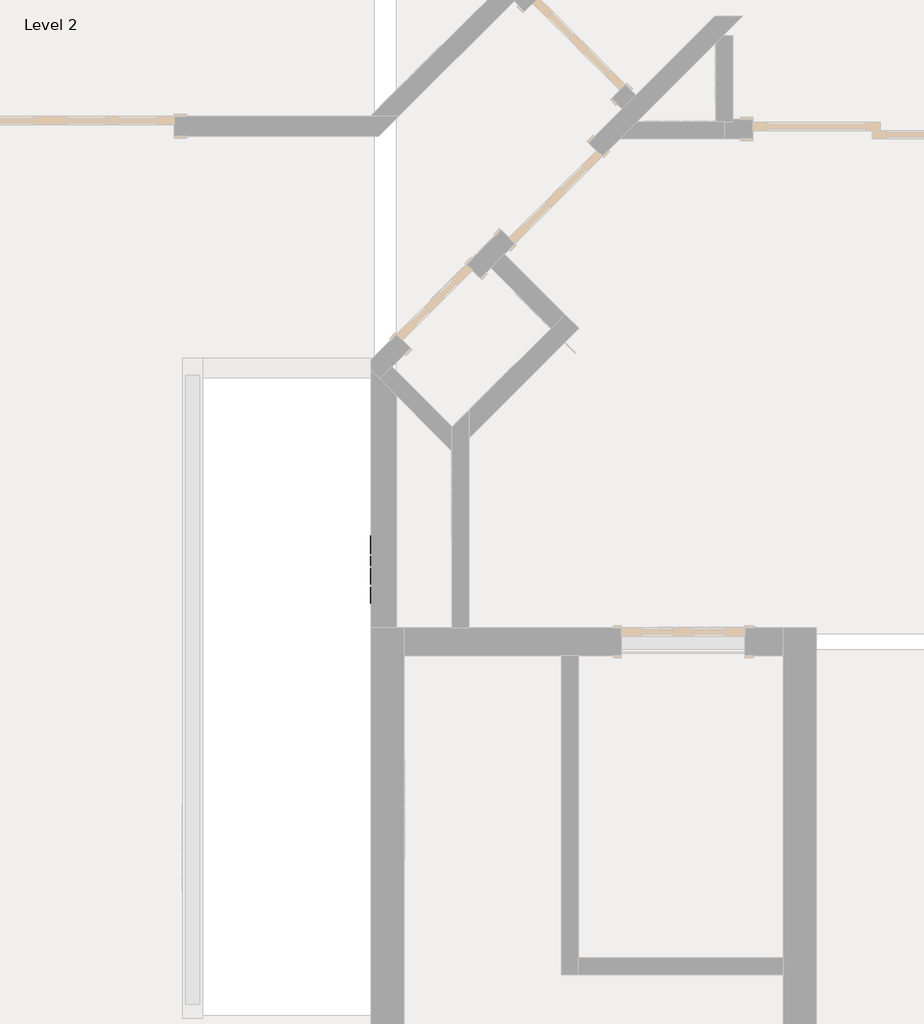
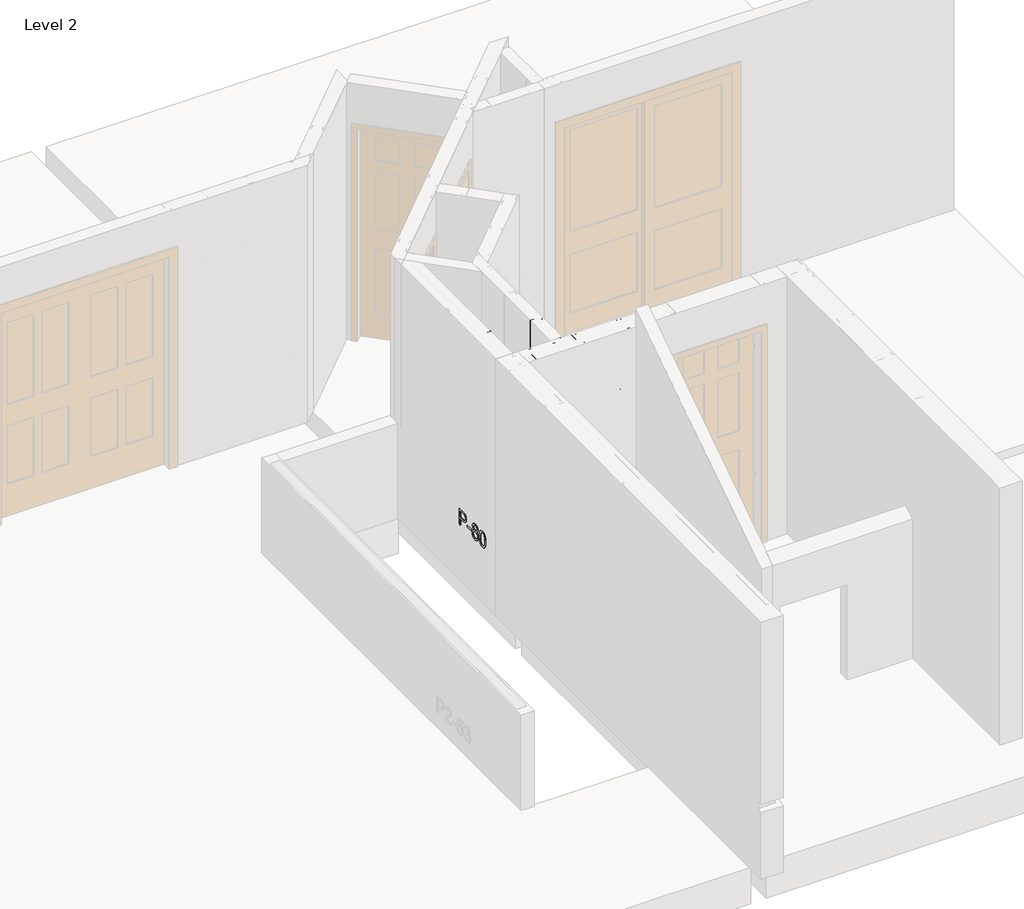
# One storey, part 17 of 46: 6 columns, 1 beam, 1 fastener.
"""IFC4 building model written with IfcOpenShell, lengths in millimetres."""

from ifc_helpers import new_model, si_unit, point, frame, origin, place, context, project, spatial, circle_curve, ellipse_curve, trimmed, transform, mapped, element, save
from ifc_brep_helpers import plane_surface, extruded_surface, advanced_brep
from components import beam_550nf150_33_da6981cb, panellabel_a96aa7af

model = new_model("IFC4")

# Units and contexts
model_context = context("Model", 3, world=origin())
ifc_project = project(units=[si_unit("LENGTHUNIT", "METRE", prefix="MILLI")], contexts=[model_context])

# Site, building, storey
site = spatial("IfcSite", under=ifc_project)
building = spatial("IfcBuilding", under=site)
storey = spatial("IfcBuildingStorey", under=building, Name="Level 2", Elevation=3060.7)

# Beam
placement = place(None, origin())
beam_550nf150_33_shape = beam_550nf150_33_da6981cb(model_context)
element("IfcBeam", 1, ObjectType="BIMSF-SSMA-S : 550NF150-33", at=placement, inside=storey, context=model_context, shape_type="MappedRepresentation", body=[
    mapped(beam_550nf150_33_shape, transform((-9034.5913349, 7311.9569916, 3076.575), x_axis=(0.0, 1.0000000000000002, 0.0), y_axis=(0.0, 0.0, -1.0000000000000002), z_axis=(-1.0000000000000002, 0.0, 0.0))),
])

# Columns
element("IfcColumn", 2, ObjectType="BIMSF-SSMA-S-Column : 350NF150-33", at=placement, inside=storey, context=model_context, shape_type="AdvancedBrep", body=[
    advanced_brep(
    [(-8532.1152285, 6499.352221, 3061.5929687), (-8621.0152285, 6499.352221, 3061.5929687), (-8621.0152285, 6537.452221, 3061.5929687), (-8615.3577127, 6537.452221, 3061.5929687), (-8615.3577127, 6536.5699052, 3061.5929687), (-8620.1329127, 6536.5699052, 3061.5929687), (-8620.1329127, 6500.2345367, 3061.5929687), (-8532.9975442, 6500.2345367, 3061.5929687), (-8532.9975442, 6536.5699052, 3061.5929687), (-8537.7727442, 6536.5699052, 3061.5929687), (-8537.7727442, 6537.452221, 3061.5929687), (-8532.1152285, 6537.452221, 3061.5929687), (-8532.1152285, 6499.352221, 5523.6070313), (-8621.0152285, 6499.352221, 5523.6070313), (-8589.2652285, 6499.352221, 3671.1929687), (-8563.8652285, 6499.352221, 3671.1929687), (-8589.2652285, 6499.352221, 4890.3929688), (-8563.8652285, 6499.352221, 4890.3929687), (-8621.0152285, 6537.452221, 5523.6070313), (-8615.3577127, 6537.452221, 5523.6070313), (-8615.3577127, 6536.5699052, 5523.6070313), (-8620.1329127, 6536.5699052, 5523.6070313), (-8620.1329127, 6500.2345367, 5523.6070313), (-8532.9975442, 6500.2345367, 5523.6070313), (-8563.8652285, 6500.2345367, 3671.1929687), (-8589.2652285, 6500.2345367, 3671.1929687), (-8563.8652285, 6500.2345367, 4890.3929688), (-8589.2652285, 6500.2345367, 4890.3929688), (-8532.9975442, 6536.5699052, 5523.6070313), (-8537.7727442, 6536.5699052, 5523.6070313), (-8537.7727442, 6537.452221, 5523.6070313), (-8532.1152285, 6537.452221, 5523.6070313)],
    [
        (0, 1),
        (1, 2),
        (2, 3),
        (3, 4),
        (4, 5),
        (5, 6),
        (6, 7),
        (7, 8),
        (8, 9),
        (9, 10),
        (10, 11),
        (11, 0),
        (0, 12),
        (12, 13),
        (13, 1),
        (14, 15, circle_curve(frame((-8576.5652285, 6499.352221, 3671.1929688), z_axis=(0.0, 1.0, 0.0), x_axis=(-1.0, 0.0, 0.0)), 12.7)),
        (15, 14, circle_curve(frame((-8576.5652285, 6499.352221, 3671.1929688), z_axis=(0.0, 1.0, 0.0), x_axis=(-1.0, 0.0, 0.0)), 12.7)),
        (16, 17, circle_curve(frame((-8576.5652285, 6499.352221, 4890.3929687), z_axis=(0.0, 1.0, 0.0), x_axis=(-1.0, 0.0, 0.0)), 12.7)),
        (17, 16, circle_curve(frame((-8576.5652285, 6499.352221, 4890.3929687), z_axis=(0.0, 1.0, 0.0), x_axis=(-1.0, 0.0, 0.0)), 12.7)),
        (13, 18),
        (18, 2),
        (18, 19),
        (19, 3),
        (19, 20),
        (20, 4),
        (20, 21),
        (21, 5),
        (21, 22),
        (22, 6),
        (22, 23),
        (23, 7),
        (24, 25, circle_curve(frame((-8576.5652285, 6500.2345367, 3671.1929687), z_axis=(0.0, -1.0, 0.0), x_axis=(-1.0, 0.0, 0.0)), 12.7)),
        (25, 24, circle_curve(frame((-8576.5652285, 6500.2345367, 3671.1929688), z_axis=(0.0, -1.0, 0.0), x_axis=(-1.0, 0.0, 0.0)), 12.7)),
        (26, 27, circle_curve(frame((-8576.5652285, 6500.2345367, 4890.3929687), z_axis=(0.0, -1.0, 0.0), x_axis=(-1.0, 0.0, 0.0)), 12.7)),
        (27, 26, circle_curve(frame((-8576.5652285, 6500.2345367, 4890.3929687), z_axis=(0.0, -1.0, 0.0), x_axis=(-1.0, 0.0, 0.0)), 12.7)),
        (23, 28),
        (28, 8),
        (28, 29),
        (29, 9),
        (29, 30),
        (30, 10),
        (30, 31),
        (31, 11),
        (31, 12),
        (24, 15),
        (14, 25),
        (26, 17),
        (16, 27),
    ],
    [
        plane_surface(frame((-8532.1152285, 6499.352221, 3061.5929687), z_axis=(0.0, 0.0, -1.0), x_axis=(0.0, -1.0, 0.0))),
        plane_surface(frame((-8621.0152285, 6499.352221, 5523.6070313), z_axis=(0.0, -1.0, 0.0), x_axis=(0.0, 0.0, -1.0))),
        plane_surface(frame((-8621.0152285, 6537.452221, 5523.6070313), z_axis=(-1.0, 0.0, 0.0), x_axis=(0.0, 0.0, -1.0))),
        plane_surface(frame((-8615.3577127, 6537.452221, 5523.6070313), z_axis=(0.0, 1.0, 0.0), x_axis=(0.0, 0.0, -1.0))),
        plane_surface(frame((-8615.3577127, 6536.5699052, 5523.6070313), z_axis=(1.0, 0.0, 0.0), x_axis=(0.0, 0.0, -1.0))),
        plane_surface(frame((-8620.1329127, 6536.5699052, 5523.6070313), z_axis=(0.0, -1.0, 0.0), x_axis=(0.0, 0.0, -1.0))),
        plane_surface(frame((-8620.1329127, 6500.2345367, 5523.6070313), z_axis=(1.0, 0.0, 0.0), x_axis=(0.0, 0.0, -1.0))),
        plane_surface(frame((-8532.9975442, 6500.2345367, 5523.6070313), z_axis=(0.0, 1.0, 0.0), x_axis=(0.0, 0.0, -1.0))),
        plane_surface(frame((-8532.9975442, 6536.5699052, 5523.6070313), z_axis=(-1.0, 0.0, 0.0), x_axis=(0.0, 0.0, -1.0))),
        plane_surface(frame((-8537.7727442, 6536.5699052, 5523.6070313), z_axis=(0.0, -1.0, 0.0), x_axis=(0.0, 0.0, -1.0))),
        plane_surface(frame((-8537.7727442, 6537.452221, 5523.6070313), z_axis=(-1.0, 0.0, 0.0), x_axis=(0.0, 0.0, -1.0))),
        plane_surface(frame((-8532.1152285, 6537.452221, 5523.6070313), z_axis=(0.0, 1.0, 0.0), x_axis=(0.0, 0.0, -1.0))),
        plane_surface(frame((-8532.1152285, 6499.352221, 5523.6070313), z_axis=(1.0, 0.0, 0.0), x_axis=(0.0, 0.0, -1.0))),
        plane_surface(frame((-8532.1152285, 6499.352221, 5523.6070313), z_axis=(0.0, 0.0, 1.0), x_axis=(0.0, 1.0, 0.0))),
        extruded_surface(trimmed(ellipse_curve(frame((-8576.5652285, 8980.4162835, 3671.1929688), z_axis=(0.0, -1.0, 0.0), x_axis=(-1.0, 0.0, 0.0)), 12.7, 12.7), [point((-8563.8652285, 8980.4162835, 3671.1929688))], [point((-8589.2652285, 8980.4162835, 3671.1929688))], True, "CARTESIAN"), (0.0, 4924.028124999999, 0.0), 4924.028124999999),
        extruded_surface(trimmed(ellipse_curve(frame((-8576.5652285, 8980.4162835, 3671.1929688), z_axis=(0.0, -1.0, 0.0), x_axis=(-1.0, 0.0, 0.0)), 12.7, 12.7), [point((-8589.2652285, 8980.4162835, 3671.1929688))], [point((-8563.8652285, 8980.4162835, 3671.1929688))], True, "CARTESIAN"), (0.0, 4924.028124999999, 0.0), 4924.028124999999),
        extruded_surface(trimmed(ellipse_curve(frame((-8576.5652285, 8980.4162835, 4890.3929687), z_axis=(0.0, -1.0, 0.0), x_axis=(-1.0, 0.0, 0.0)), 12.7, 12.7), [point((-8563.8652285, 8980.4162835, 4890.3929687))], [point((-8589.2652285, 8980.4162835, 4890.3929687))], True, "CARTESIAN"), (0.0, 4924.028124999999, 0.0), 4924.028124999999),
        extruded_surface(trimmed(ellipse_curve(frame((-8576.5652285, 8980.4162835, 4890.3929687), z_axis=(0.0, -1.0, 0.0), x_axis=(-1.0, 0.0, 0.0)), 12.7, 12.7), [point((-8589.2652285, 8980.4162835, 4890.3929687))], [point((-8563.8652285, 8980.4162835, 4890.3929687))], True, "CARTESIAN"), (0.0, 4924.028124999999, 0.0), 4924.028124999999),
    ],
    [
        (0, [[1, 2, 3, 4, 5, 6, 7, 8, 9, 10, 11, 12]]),
        (1, [[-1, 13, 14, 15], [16, 17], [18, 19]]),
        (2, [[-2, -15, 20, 21]]),
        (3, [[-3, -21, 22, 23]]),
        (4, [[-4, -23, 24, 25]]),
        (5, [[-5, -25, 26, 27]]),
        (6, [[-6, -27, 28, 29]]),
        (7, [[-7, -29, 30, 31], [32, 33], [34, 35]]),
        (8, [[-8, -31, 36, 37]]),
        (9, [[-9, -37, 38, 39]]),
        (10, [[-10, -39, 40, 41]]),
        (11, [[-11, -41, 42, 43]]),
        (12, [[-12, -43, 44, -13]]),
        (13, [[-14, -44, -42, -40, -38, -36, -30, -28, -26, -24, -22, -20]]),
        (14, [[45, -16, 46, -32]]),
        (15, [[-45, -33, -46, -17]]),
        (16, [[47, -18, 48, -34]]),
        (17, [[-47, -35, -48, -19]]),
    ],
),
])
element("IfcColumn", 3, ObjectType="BIMSF-SSMA-S-Column : 350NF150-33", at=placement, inside=storey, context=model_context, shape_type="AdvancedBrep", body=[
    advanced_brep(
    [(-8621.0152285, 6864.3187599, 3061.5929687), (-8532.1152285, 6864.3187599, 3061.5929687), (-8532.1152285, 6826.2187599, 3061.5929687), (-8537.7727442, 6826.2187599, 3061.5929687), (-8537.7727442, 6827.1010757, 3061.5929687), (-8532.9975442, 6827.1010757, 3061.5929687), (-8532.9975442, 6863.4364441, 3061.5929687), (-8620.1329127, 6863.4364441, 3061.5929687), (-8620.1329127, 6827.1010757, 3061.5929687), (-8615.3577127, 6827.1010757, 3061.5929687), (-8615.3577127, 6826.2187599, 3061.5929687), (-8621.0152285, 6826.2187599, 3061.5929687), (-8621.0152285, 6864.3187599, 5523.6070313), (-8532.1152285, 6864.3187599, 5523.6070313), (-8563.8652285, 6864.3187599, 3671.1929688), (-8589.2652285, 6864.3187599, 3671.1929687), (-8563.8652285, 6864.3187599, 4890.3929687), (-8589.2652285, 6864.3187599, 4890.3929687), (-8532.1152285, 6826.2187599, 5523.6070313), (-8537.7727442, 6826.2187599, 5523.6070313), (-8537.7727442, 6827.1010757, 5523.6070313), (-8532.9975442, 6827.1010757, 5523.6070313), (-8532.9975442, 6863.4364441, 5523.6070313), (-8620.1329127, 6863.4364441, 5523.6070313), (-8589.2652285, 6863.4364441, 3671.1929688), (-8563.8652285, 6863.4364441, 3671.1929688), (-8589.2652285, 6863.4364441, 4890.3929687), (-8563.8652285, 6863.4364441, 4890.3929687), (-8620.1329127, 6827.1010757, 5523.6070313), (-8615.3577127, 6827.1010757, 5523.6070313), (-8615.3577127, 6826.2187599, 5523.6070313), (-8621.0152285, 6826.2187599, 5523.6070313)],
    [
        (0, 1),
        (1, 2),
        (2, 3),
        (3, 4),
        (4, 5),
        (5, 6),
        (6, 7),
        (7, 8),
        (8, 9),
        (9, 10),
        (10, 11),
        (11, 0),
        (0, 12),
        (12, 13),
        (13, 1),
        (14, 15, circle_curve(frame((-8576.5652285, 6864.3187599, 3671.1929687), z_axis=(0.0, -1.0, 0.0), x_axis=(1.0, 0.0, 0.0)), 12.7)),
        (15, 14, circle_curve(frame((-8576.5652285, 6864.3187599, 3671.1929687), z_axis=(0.0, -1.0, 0.0), x_axis=(1.0, 0.0, 0.0)), 12.7)),
        (16, 17, circle_curve(frame((-8576.5652285, 6864.3187599, 4890.3929687), z_axis=(0.0, -1.0, 0.0), x_axis=(1.0, 0.0, 0.0)), 12.7)),
        (17, 16, circle_curve(frame((-8576.5652285, 6864.3187599, 4890.3929687), z_axis=(0.0, -1.0, 0.0), x_axis=(1.0, 0.0, 0.0)), 12.7)),
        (13, 18),
        (18, 2),
        (18, 19),
        (19, 3),
        (19, 20),
        (20, 4),
        (20, 21),
        (21, 5),
        (21, 22),
        (22, 6),
        (22, 23),
        (23, 7),
        (24, 25, circle_curve(frame((-8576.5652285, 6863.4364441, 3671.1929687), z_axis=(0.0, 1.0, 0.0), x_axis=(1.0, 0.0, 0.0)), 12.7)),
        (25, 24, circle_curve(frame((-8576.5652285, 6863.4364441, 3671.1929687), z_axis=(0.0, 1.0, 0.0), x_axis=(1.0, 0.0, 0.0)), 12.7)),
        (26, 27, circle_curve(frame((-8576.5652285, 6863.4364441, 4890.3929687), z_axis=(0.0, 1.0, 0.0), x_axis=(1.0, 0.0, 0.0)), 12.7)),
        (27, 26, circle_curve(frame((-8576.5652285, 6863.4364441, 4890.3929687), z_axis=(0.0, 1.0, 0.0), x_axis=(1.0, 0.0, 0.0)), 12.7)),
        (23, 28),
        (28, 8),
        (28, 29),
        (29, 9),
        (29, 30),
        (30, 10),
        (30, 31),
        (31, 11),
        (31, 12),
        (24, 15),
        (14, 25),
        (26, 17),
        (16, 27),
    ],
    [
        plane_surface(frame((-8621.0152285, 6864.3187599, 3061.5929687), z_axis=(0.0, 0.0, -1.0), x_axis=(0.0, 1.0, 0.0))),
        plane_surface(frame((-8532.1152285, 6864.3187599, 5523.6070313), z_axis=(0.0, 1.0, 0.0), x_axis=(0.0, 0.0, -1.0))),
        plane_surface(frame((-8532.1152285, 6826.2187599, 5523.6070313), z_axis=(1.0, 0.0, 0.0), x_axis=(0.0, 0.0, -1.0))),
        plane_surface(frame((-8537.7727442, 6826.2187599, 5523.6070313), z_axis=(0.0, -1.0, 0.0), x_axis=(0.0, 0.0, -1.0))),
        plane_surface(frame((-8537.7727442, 6827.1010757, 5523.6070313), z_axis=(-1.0, 0.0, 0.0), x_axis=(0.0, 0.0, -1.0))),
        plane_surface(frame((-8532.9975442, 6827.1010757, 5523.6070313), z_axis=(0.0, 1.0, 0.0), x_axis=(0.0, 0.0, -1.0))),
        plane_surface(frame((-8532.9975442, 6863.4364441, 5523.6070313), z_axis=(-1.0, 0.0, 0.0), x_axis=(0.0, 0.0, -1.0))),
        plane_surface(frame((-8620.1329127, 6863.4364441, 5523.6070313), z_axis=(0.0, -1.0, 0.0), x_axis=(0.0, 0.0, -1.0))),
        plane_surface(frame((-8620.1329127, 6827.1010757, 5523.6070313), z_axis=(1.0, 0.0, 0.0), x_axis=(0.0, 0.0, -1.0))),
        plane_surface(frame((-8615.3577127, 6827.1010757, 5523.6070313), z_axis=(0.0, 1.0, 0.0), x_axis=(0.0, 0.0, -1.0))),
        plane_surface(frame((-8615.3577127, 6826.2187599, 5523.6070313), z_axis=(1.0, 0.0, 0.0), x_axis=(0.0, 0.0, -1.0))),
        plane_surface(frame((-8621.0152285, 6826.2187599, 5523.6070313), z_axis=(0.0, -1.0, 0.0), x_axis=(0.0, 0.0, -1.0))),
        plane_surface(frame((-8621.0152285, 6864.3187599, 5523.6070313), z_axis=(-1.0, 0.0, 0.0), x_axis=(0.0, 0.0, -1.0))),
        plane_surface(frame((-8621.0152285, 6864.3187599, 5523.6070313), z_axis=(0.0, 0.0, 1.0), x_axis=(0.0, -1.0, 0.0))),
        extruded_surface(trimmed(ellipse_curve(frame((-8576.5652285, 4383.2546974, 3671.1929688), z_axis=(0.0, 1.0, 0.0), x_axis=(1.0, 0.0, 0.0)), 12.7, 12.7), [point((-8589.2652285, 4383.2546974, 3671.1929688))], [point((-8563.8652285, 4383.2546974, 3671.1929688))], True, "CARTESIAN"), (0.0, -4924.028125, 0.0), 4924.028125),
        extruded_surface(trimmed(ellipse_curve(frame((-8576.5652285, 4383.2546974, 3671.1929688), z_axis=(0.0, 1.0, 0.0), x_axis=(1.0, 0.0, 0.0)), 12.7, 12.7), [point((-8563.8652285, 4383.2546974, 3671.1929688))], [point((-8589.2652285, 4383.2546974, 3671.1929688))], True, "CARTESIAN"), (0.0, -4924.028125, 0.0), 4924.028125),
        extruded_surface(trimmed(ellipse_curve(frame((-8576.5652285, 4383.2546974, 4890.3929687), z_axis=(0.0, 1.0, 0.0), x_axis=(1.0, 0.0, 0.0)), 12.7, 12.7), [point((-8589.2652285, 4383.2546974, 4890.3929687))], [point((-8563.8652285, 4383.2546974, 4890.3929687))], True, "CARTESIAN"), (0.0, -4924.028125, 0.0), 4924.028125),
        extruded_surface(trimmed(ellipse_curve(frame((-8576.5652285, 4383.2546974, 4890.3929687), z_axis=(0.0, 1.0, 0.0), x_axis=(1.0, 0.0, 0.0)), 12.7, 12.7), [point((-8563.8652285, 4383.2546974, 4890.3929687))], [point((-8589.2652285, 4383.2546974, 4890.3929687))], True, "CARTESIAN"), (0.0, -4924.028125, 0.0), 4924.028125),
    ],
    [
        (0, [[1, 2, 3, 4, 5, 6, 7, 8, 9, 10, 11, 12]]),
        (1, [[-1, 13, 14, 15], [16, 17], [18, 19]]),
        (2, [[-2, -15, 20, 21]]),
        (3, [[-3, -21, 22, 23]]),
        (4, [[-4, -23, 24, 25]]),
        (5, [[-5, -25, 26, 27]]),
        (6, [[-6, -27, 28, 29]]),
        (7, [[-7, -29, 30, 31], [32, 33], [34, 35]]),
        (8, [[-8, -31, 36, 37]]),
        (9, [[-9, -37, 38, 39]]),
        (10, [[-10, -39, 40, 41]]),
        (11, [[-11, -41, 42, 43]]),
        (12, [[-12, -43, 44, -13]]),
        (13, [[-14, -44, -42, -40, -38, -36, -30, -28, -26, -24, -22, -20]]),
        (14, [[45, -16, 46, -32]]),
        (15, [[-45, -33, -46, -17]]),
        (16, [[47, -18, 48, -34]]),
        (17, [[-47, -35, -48, -19]]),
    ],
),
])
element("IfcColumn", 4, ObjectType="BIMSF-SSMA-S-Column : 550NF150-33", at=placement, inside=storey, context=model_context, shape_type="AdvancedBrep", body=[
    advanced_brep(
    [(-8964.7413349, 6886.702221, 3061.5929687), (-9104.4413349, 6886.702221, 3061.5929687), (-9104.4413349, 6924.802221, 3061.5929687), (-9098.7838191, 6924.802221, 3061.5929687), (-9098.7838191, 6923.9199052, 3061.5929687), (-9103.5590191, 6923.9199052, 3061.5929687), (-9103.5590191, 6887.5845367, 3061.5929687), (-8965.6236507, 6887.5845367, 3061.5929687), (-8965.6236507, 6923.9199052, 3061.5929687), (-8970.3988507, 6923.9199052, 3061.5929687), (-8970.3988507, 6924.802221, 3061.5929687), (-8964.7413349, 6924.802221, 3061.5929687), (-8964.7413349, 6886.702221, 5523.6070313), (-9104.4413349, 6886.702221, 5523.6070313), (-9047.2913349, 6886.702221, 3671.1929687), (-9021.8913349, 6886.702221, 3671.1929687), (-9047.2913349, 6886.702221, 4890.3929688), (-9021.8913349, 6886.702221, 4890.3929687), (-9104.4413349, 6924.802221, 5523.6070313), (-9098.7838191, 6924.802221, 5523.6070313), (-9098.7838191, 6923.9199052, 5523.6070313), (-9103.5590191, 6923.9199052, 5523.6070313), (-9103.5590191, 6887.5845367, 5523.6070313), (-8965.6236507, 6887.5845367, 5523.6070313), (-9021.8913349, 6887.5845367, 3671.1929687), (-9047.2913349, 6887.5845367, 3671.1929687), (-9021.8913349, 6887.5845367, 4890.3929688), (-9047.2913349, 6887.5845367, 4890.3929688), (-8965.6236507, 6923.9199052, 5523.6070313), (-8970.3988507, 6923.9199052, 5523.6070313), (-8970.3988507, 6924.802221, 5523.6070313), (-8964.7413349, 6924.802221, 5523.6070313)],
    [
        (0, 1),
        (1, 2),
        (2, 3),
        (3, 4),
        (4, 5),
        (5, 6),
        (6, 7),
        (7, 8),
        (8, 9),
        (9, 10),
        (10, 11),
        (11, 0),
        (0, 12),
        (12, 13),
        (13, 1),
        (14, 15, circle_curve(frame((-9034.5913349, 6886.702221, 3671.1929687), z_axis=(0.0, 1.0, 0.0), x_axis=(-1.0, 0.0, 0.0)), 12.7)),
        (15, 14, circle_curve(frame((-9034.5913349, 6886.702221, 3671.1929688), z_axis=(0.0, 1.0, 0.0), x_axis=(-1.0, 0.0, 0.0)), 12.7)),
        (16, 17, circle_curve(frame((-9034.5913349, 6886.702221, 4890.3929687), z_axis=(0.0, 1.0, 0.0), x_axis=(-1.0, 0.0, 0.0)), 12.7)),
        (17, 16, circle_curve(frame((-9034.5913349, 6886.702221, 4890.3929687), z_axis=(0.0, 1.0, 0.0), x_axis=(-1.0, 0.0, 0.0)), 12.7)),
        (13, 18),
        (18, 2),
        (18, 19),
        (19, 3),
        (19, 20),
        (20, 4),
        (20, 21),
        (21, 5),
        (21, 22),
        (22, 6),
        (22, 23),
        (23, 7),
        (24, 25, circle_curve(frame((-9034.5913349, 6887.5845367, 3671.1929687), z_axis=(0.0, -1.0, 0.0), x_axis=(-1.0, 0.0, 0.0)), 12.7)),
        (25, 24, circle_curve(frame((-9034.5913349, 6887.5845367, 3671.1929688), z_axis=(0.0, -1.0, 0.0), x_axis=(-1.0, 0.0, 0.0)), 12.7)),
        (26, 27, circle_curve(frame((-9034.5913349, 6887.5845367, 4890.3929687), z_axis=(0.0, -1.0, 0.0), x_axis=(-1.0, 0.0, 0.0)), 12.7)),
        (27, 26, circle_curve(frame((-9034.5913349, 6887.5845367, 4890.3929687), z_axis=(0.0, -1.0, 0.0), x_axis=(-1.0, 0.0, 0.0)), 12.7)),
        (23, 28),
        (28, 8),
        (28, 29),
        (29, 9),
        (29, 30),
        (30, 10),
        (30, 31),
        (31, 11),
        (31, 12),
        (24, 15),
        (14, 25),
        (26, 17),
        (16, 27),
    ],
    [
        plane_surface(frame((-8964.7413349, 6886.702221, 3061.5929687), z_axis=(0.0, 0.0, -1.0), x_axis=(0.0, -1.0, 0.0))),
        plane_surface(frame((-9104.4413349, 6886.702221, 5523.6070313), z_axis=(0.0, -1.0, 0.0), x_axis=(0.0, 0.0, -1.0))),
        plane_surface(frame((-9104.4413349, 6924.802221, 5523.6070313), z_axis=(-1.0, 0.0, 0.0), x_axis=(0.0, 0.0, -1.0))),
        plane_surface(frame((-9098.7838191, 6924.802221, 5523.6070313), z_axis=(0.0, 1.0, 0.0), x_axis=(0.0, 0.0, -1.0))),
        plane_surface(frame((-9098.7838191, 6923.9199052, 5523.6070313), z_axis=(1.0, 0.0, 0.0), x_axis=(0.0, 0.0, -1.0))),
        plane_surface(frame((-9103.5590191, 6923.9199052, 5523.6070313), z_axis=(0.0, -1.0, 0.0), x_axis=(0.0, 0.0, -1.0))),
        plane_surface(frame((-9103.5590191, 6887.5845367, 5523.6070313), z_axis=(1.0, 0.0, 0.0), x_axis=(0.0, 0.0, -1.0))),
        plane_surface(frame((-8965.6236507, 6887.5845367, 5523.6070313), z_axis=(0.0, 1.0, 0.0), x_axis=(0.0, 0.0, -1.0))),
        plane_surface(frame((-8965.6236507, 6923.9199052, 5523.6070313), z_axis=(-1.0, 0.0, 0.0), x_axis=(0.0, 0.0, -1.0))),
        plane_surface(frame((-8970.3988507, 6923.9199052, 5523.6070313), z_axis=(0.0, -1.0, 0.0), x_axis=(0.0, 0.0, -1.0))),
        plane_surface(frame((-8970.3988507, 6924.802221, 5523.6070313), z_axis=(-1.0, 0.0, 0.0), x_axis=(0.0, 0.0, -1.0))),
        plane_surface(frame((-8964.7413349, 6924.802221, 5523.6070313), z_axis=(0.0, 1.0, 0.0), x_axis=(0.0, 0.0, -1.0))),
        plane_surface(frame((-8964.7413349, 6886.702221, 5523.6070313), z_axis=(1.0, 0.0, 0.0), x_axis=(0.0, 0.0, -1.0))),
        plane_surface(frame((-8964.7413349, 6886.702221, 5523.6070313), z_axis=(0.0, 0.0, 1.0), x_axis=(0.0, 1.0, 0.0))),
        extruded_surface(trimmed(ellipse_curve(frame((-9034.5913349, 9367.7662835, 3671.1929688), z_axis=(0.0, -1.0, 0.0), x_axis=(-1.0, 0.0, 0.0)), 12.7, 12.7), [point((-9021.8913349, 9367.7662835, 3671.1929688))], [point((-9047.2913349, 9367.7662835, 3671.1929688))], True, "CARTESIAN"), (0.0, 4924.028125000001, 0.0), 4924.028125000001),
        extruded_surface(trimmed(ellipse_curve(frame((-9034.5913349, 9367.7662835, 3671.1929688), z_axis=(0.0, -1.0, 0.0), x_axis=(-1.0, 0.0, 0.0)), 12.7, 12.7), [point((-9047.2913349, 9367.7662835, 3671.1929688))], [point((-9021.8913349, 9367.7662835, 3671.1929688))], True, "CARTESIAN"), (0.0, 4924.028125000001, 0.0), 4924.028125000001),
        extruded_surface(trimmed(ellipse_curve(frame((-9034.5913349, 9367.7662835, 4890.3929687), z_axis=(0.0, -1.0, 0.0), x_axis=(-1.0, 0.0, 0.0)), 12.7, 12.7), [point((-9021.8913349, 9367.7662835, 4890.3929687))], [point((-9047.2913349, 9367.7662835, 4890.3929687))], True, "CARTESIAN"), (0.0, 4924.028125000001, 0.0), 4924.028125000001),
        extruded_surface(trimmed(ellipse_curve(frame((-9034.5913349, 9367.7662835, 4890.3929687), z_axis=(0.0, -1.0, 0.0), x_axis=(-1.0, 0.0, 0.0)), 12.7, 12.7), [point((-9047.2913349, 9367.7662835, 4890.3929687))], [point((-9021.8913349, 9367.7662835, 4890.3929687))], True, "CARTESIAN"), (0.0, 4924.028125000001, 0.0), 4924.028125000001),
    ],
    [
        (0, [[1, 2, 3, 4, 5, 6, 7, 8, 9, 10, 11, 12]]),
        (1, [[-1, 13, 14, 15], [16, 17], [18, 19]]),
        (2, [[-2, -15, 20, 21]]),
        (3, [[-3, -21, 22, 23]]),
        (4, [[-4, -23, 24, 25]]),
        (5, [[-5, -25, 26, 27]]),
        (6, [[-6, -27, 28, 29]]),
        (7, [[-7, -29, 30, 31], [32, 33], [34, 35]]),
        (8, [[-8, -31, 36, 37]]),
        (9, [[-9, -37, 38, 39]]),
        (10, [[-10, -39, 40, 41]]),
        (11, [[-11, -41, 42, 43]]),
        (12, [[-12, -43, 44, -13]]),
        (13, [[-14, -44, -42, -40, -38, -36, -30, -28, -26, -24, -22, -20]]),
        (14, [[45, -16, 46, -32]]),
        (15, [[-45, -33, -46, -17]]),
        (16, [[47, -18, 48, -34]]),
        (17, [[-47, -35, -48, -19]]),
    ],
),
])
element("IfcColumn", 5, ObjectType="BIMSF-SSMA-S-Column : 550NF150-43", at=placement, inside=storey, context=model_context, shape_type="AdvancedBrep", body=[
    advanced_brep(
    [(-8036.0538349, 6385.052221, 3061.5929687), (-8036.0538349, 6524.752221, 3061.5929687), (-7997.9538349, 6524.752221, 3061.5929687), (-7997.9538349, 6518.8273367, 3061.5929687), (-7999.1035191, 6518.8273367, 3061.5929687), (-7999.1035191, 6523.6025367, 3061.5929687), (-8034.9041507, 6523.6025367, 3061.5929687), (-8034.9041507, 6386.2019052, 3061.5929687), (-7999.1035191, 6386.2019052, 3061.5929687), (-7999.1035191, 6390.9771052, 3061.5929687), (-7997.9538349, 6390.9771052, 3061.5929687), (-7997.9538349, 6385.052221, 3061.5929687), (-8036.0538349, 6385.052221, 5523.6070313), (-8036.0538349, 6524.752221, 5523.6070313), (-8036.0538349, 6467.602221, 3671.1929688), (-8036.0538349, 6442.202221, 3671.1929688), (-8036.0538349, 6467.602221, 4890.3929687), (-8036.0538349, 6442.202221, 4890.3929687), (-7997.9538349, 6524.752221, 5523.6070313), (-7997.9538349, 6518.8273367, 5523.6070313), (-7999.1035191, 6518.8273367, 5523.6070313), (-7999.1035191, 6523.6025367, 5523.6070313), (-8034.9041507, 6523.6025367, 5523.6070313), (-8034.9041507, 6386.2019052, 5523.6070313), (-8034.9041507, 6442.202221, 3671.1929688), (-8034.9041507, 6467.602221, 3671.1929688), (-8034.9041507, 6442.202221, 4890.3929687), (-8034.9041507, 6467.602221, 4890.3929687), (-7999.1035191, 6386.2019052, 5523.6070313), (-7999.1035191, 6390.9771052, 5523.6070313), (-7997.9538349, 6390.9771052, 5523.6070313), (-7997.9538349, 6385.052221, 5523.6070313)],
    [
        (0, 1),
        (1, 2),
        (2, 3),
        (3, 4),
        (4, 5),
        (5, 6),
        (6, 7),
        (7, 8),
        (8, 9),
        (9, 10),
        (10, 11),
        (11, 0),
        (0, 12),
        (12, 13),
        (13, 1),
        (14, 15, circle_curve(frame((-8036.0538349, 6454.902221, 3671.1929688), z_axis=(1.0, 0.0, 0.0), x_axis=(0.0, 1.0, 0.0)), 12.7)),
        (15, 14, circle_curve(frame((-8036.0538349, 6454.902221, 3671.1929688), z_axis=(1.0, 0.0, 0.0), x_axis=(0.0, 1.0, 0.0)), 12.7)),
        (16, 17, circle_curve(frame((-8036.0538349, 6454.902221, 4890.3929687), z_axis=(1.0, 0.0, 0.0), x_axis=(0.0, 1.0, 0.0)), 12.7)),
        (17, 16, circle_curve(frame((-8036.0538349, 6454.902221, 4890.3929687), z_axis=(1.0, 0.0, 0.0), x_axis=(0.0, 1.0, 0.0)), 12.7)),
        (13, 18),
        (18, 2),
        (18, 19),
        (19, 3),
        (19, 20),
        (20, 4),
        (20, 21),
        (21, 5),
        (21, 22),
        (22, 6),
        (22, 23),
        (23, 7),
        (24, 25, circle_curve(frame((-8034.9041507, 6454.902221, 3671.1929687), z_axis=(-1.0, 0.0, 0.0), x_axis=(0.0, 1.0, 0.0)), 12.7)),
        (25, 24, circle_curve(frame((-8034.9041507, 6454.902221, 3671.1929687), z_axis=(-1.0, 0.0, 0.0), x_axis=(0.0, 1.0, 0.0)), 12.7)),
        (26, 27, circle_curve(frame((-8034.9041507, 6454.902221, 4890.3929687), z_axis=(-1.0, 0.0, 0.0), x_axis=(0.0, 1.0, 0.0)), 12.7)),
        (27, 26, circle_curve(frame((-8034.9041507, 6454.902221, 4890.3929687), z_axis=(-1.0, 0.0, 0.0), x_axis=(0.0, 1.0, 0.0)), 12.7)),
        (23, 28),
        (28, 8),
        (28, 29),
        (29, 9),
        (29, 30),
        (30, 10),
        (30, 31),
        (31, 11),
        (31, 12),
        (24, 15),
        (14, 25),
        (26, 17),
        (16, 27),
    ],
    [
        plane_surface(frame((-8036.0538349, 6385.052221, 3061.5929687), z_axis=(0.0, 0.0, -1.0), x_axis=(-1.0, 0.0, 0.0))),
        plane_surface(frame((-8036.0538349, 6524.752221, 5523.6070313), z_axis=(-1.0, 0.0, 0.0), x_axis=(0.0, 0.0, -1.0))),
        plane_surface(frame((-7997.9538349, 6524.752221, 5523.6070313), z_axis=(0.0, 1.0, 0.0), x_axis=(0.0, 0.0, -1.0))),
        plane_surface(frame((-7997.9538349, 6518.8273367, 5523.6070313), z_axis=(1.0, 0.0, 0.0), x_axis=(0.0, 0.0, -1.0))),
        plane_surface(frame((-7999.1035191, 6518.8273367, 5523.6070313), z_axis=(0.0, -1.0, 0.0), x_axis=(0.0, 0.0, -1.0))),
        plane_surface(frame((-7999.1035191, 6523.6025367, 5523.6070313), z_axis=(-1.0, 0.0, 0.0), x_axis=(0.0, 0.0, -1.0))),
        plane_surface(frame((-8034.9041507, 6523.6025367, 5523.6070313), z_axis=(0.0, -1.0, 0.0), x_axis=(0.0, 0.0, -1.0))),
        plane_surface(frame((-8034.9041507, 6386.2019052, 5523.6070313), z_axis=(1.0, 0.0, 0.0), x_axis=(0.0, 0.0, -1.0))),
        plane_surface(frame((-7999.1035191, 6386.2019052, 5523.6070313), z_axis=(0.0, 1.0, 0.0), x_axis=(0.0, 0.0, -1.0))),
        plane_surface(frame((-7999.1035191, 6390.9771052, 5523.6070313), z_axis=(-1.0, 0.0, 0.0), x_axis=(0.0, 0.0, -1.0))),
        plane_surface(frame((-7997.9538349, 6390.9771052, 5523.6070313), z_axis=(0.0, 1.0, 0.0), x_axis=(0.0, 0.0, -1.0))),
        plane_surface(frame((-7997.9538349, 6385.052221, 5523.6070313), z_axis=(1.0, 0.0, 0.0), x_axis=(0.0, 0.0, -1.0))),
        plane_surface(frame((-8036.0538349, 6385.052221, 5523.6070313), z_axis=(0.0, -1.0, 0.0), x_axis=(0.0, 0.0, -1.0))),
        plane_surface(frame((-8036.0538349, 6385.052221, 5523.6070313), z_axis=(0.0, 0.0, 1.0), x_axis=(1.0, 0.0, 0.0))),
        extruded_surface(trimmed(ellipse_curve(frame((-5554.9897724, 6454.902221, 3671.1929688), z_axis=(-1.0, 0.0, 0.0), x_axis=(0.0, 1.0, 0.0)), 12.7, 12.7), [point((-5554.9897724, 6442.202221, 3671.1929688))], [point((-5554.9897724, 6467.602221, 3671.1929688))], True, "CARTESIAN"), (4924.028125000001, 0.0, 0.0), 4924.028125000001),
        extruded_surface(trimmed(ellipse_curve(frame((-5554.9897724, 6454.902221, 3671.1929688), z_axis=(-1.0, 0.0, 0.0), x_axis=(0.0, 1.0, 0.0)), 12.7, 12.7), [point((-5554.9897724, 6467.602221, 3671.1929688))], [point((-5554.9897724, 6442.202221, 3671.1929688))], True, "CARTESIAN"), (4924.028125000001, 0.0, 0.0), 4924.028125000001),
        extruded_surface(trimmed(ellipse_curve(frame((-5554.9897724, 6454.902221, 4890.3929687), z_axis=(-1.0, 0.0, 0.0), x_axis=(0.0, 1.0, 0.0)), 12.7, 12.7), [point((-5554.9897724, 6442.202221, 4890.3929687))], [point((-5554.9897724, 6467.602221, 4890.3929687))], True, "CARTESIAN"), (4924.028125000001, 0.0, 0.0), 4924.028125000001),
        extruded_surface(trimmed(ellipse_curve(frame((-5554.9897724, 6454.902221, 4890.3929687), z_axis=(-1.0, 0.0, 0.0), x_axis=(0.0, 1.0, 0.0)), 12.7, 12.7), [point((-5554.9897724, 6467.602221, 4890.3929687))], [point((-5554.9897724, 6442.202221, 4890.3929687))], True, "CARTESIAN"), (4924.028125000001, 0.0, 0.0), 4924.028125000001),
    ],
    [
        (0, [[1, 2, 3, 4, 5, 6, 7, 8, 9, 10, 11, 12]]),
        (1, [[-1, 13, 14, 15], [16, 17], [18, 19]]),
        (2, [[-2, -15, 20, 21]]),
        (3, [[-3, -21, 22, 23]]),
        (4, [[-4, -23, 24, 25]]),
        (5, [[-5, -25, 26, 27]]),
        (6, [[-6, -27, 28, 29]]),
        (7, [[-7, -29, 30, 31], [32, 33], [34, 35]]),
        (8, [[-8, -31, 36, 37]]),
        (9, [[-9, -37, 38, 39]]),
        (10, [[-10, -39, 40, 41]]),
        (11, [[-11, -41, 42, 43]]),
        (12, [[-12, -43, 44, -13]]),
        (13, [[-14, -44, -42, -40, -38, -36, -30, -28, -26, -24, -22, -20]]),
        (14, [[45, -16, 46, -32]]),
        (15, [[-45, -33, -46, -17]]),
        (16, [[47, -18, 48, -34]]),
        (17, [[-47, -35, -48, -19]]),
    ],
),
])
element("IfcColumn", 6, ObjectType="BIMSF-SSMA-S-Column : 550NF150-43", at=placement, inside=storey, context=model_context, shape_type="AdvancedBrep", body=[
    advanced_brep(
    [(-8442.4538349, 6385.052221, 3061.5929687), (-8442.4538349, 6524.752221, 3061.5929687), (-8404.3538349, 6524.752221, 3061.5929687), (-8404.3538349, 6518.8273367, 3061.5929687), (-8405.5035191, 6518.8273367, 3061.5929687), (-8405.5035191, 6523.6025367, 3061.5929687), (-8441.3041507, 6523.6025367, 3061.5929687), (-8441.3041507, 6386.2019052, 3061.5929687), (-8405.5035191, 6386.2019052, 3061.5929687), (-8405.5035191, 6390.9771052, 3061.5929687), (-8404.3538349, 6390.9771052, 3061.5929687), (-8404.3538349, 6385.052221, 3061.5929687), (-8442.4538349, 6385.052221, 5523.6070313), (-8442.4538349, 6524.752221, 5523.6070313), (-8442.4538349, 6467.602221, 3671.1929688), (-8442.4538349, 6442.202221, 3671.1929688), (-8442.4538349, 6467.602221, 4890.3929687), (-8442.4538349, 6442.202221, 4890.3929687), (-8404.3538349, 6524.752221, 5523.6070313), (-8404.3538349, 6518.8273367, 5523.6070313), (-8405.5035191, 6518.8273367, 5523.6070313), (-8405.5035191, 6523.6025367, 5523.6070313), (-8441.3041507, 6523.6025367, 5523.6070313), (-8441.3041507, 6386.2019052, 5523.6070313), (-8441.3041507, 6442.202221, 3671.1929688), (-8441.3041507, 6467.602221, 3671.1929688), (-8441.3041507, 6442.202221, 4890.3929687), (-8441.3041507, 6467.602221, 4890.3929687), (-8405.5035191, 6386.2019052, 5523.6070313), (-8405.5035191, 6390.9771052, 5523.6070313), (-8404.3538349, 6390.9771052, 5523.6070313), (-8404.3538349, 6385.052221, 5523.6070313)],
    [
        (0, 1),
        (1, 2),
        (2, 3),
        (3, 4),
        (4, 5),
        (5, 6),
        (6, 7),
        (7, 8),
        (8, 9),
        (9, 10),
        (10, 11),
        (11, 0),
        (0, 12),
        (12, 13),
        (13, 1),
        (14, 15, circle_curve(frame((-8442.4538349, 6454.902221, 3671.1929687), z_axis=(1.0, 0.0, 0.0), x_axis=(0.0, 1.0, 0.0)), 12.7)),
        (15, 14, circle_curve(frame((-8442.4538349, 6454.902221, 3671.1929687), z_axis=(1.0, 0.0, 0.0), x_axis=(0.0, 1.0, 0.0)), 12.7)),
        (16, 17, circle_curve(frame((-8442.4538349, 6454.902221, 4890.3929687), z_axis=(1.0, 0.0, 0.0), x_axis=(0.0, 1.0, 0.0)), 12.7)),
        (17, 16, circle_curve(frame((-8442.4538349, 6454.902221, 4890.3929687), z_axis=(1.0, 0.0, 0.0), x_axis=(0.0, 1.0, 0.0)), 12.7)),
        (13, 18),
        (18, 2),
        (18, 19),
        (19, 3),
        (19, 20),
        (20, 4),
        (20, 21),
        (21, 5),
        (21, 22),
        (22, 6),
        (22, 23),
        (23, 7),
        (24, 25, circle_curve(frame((-8441.3041507, 6454.902221, 3671.1929687), z_axis=(-1.0, 0.0, 0.0), x_axis=(0.0, 1.0, 0.0)), 12.7)),
        (25, 24, circle_curve(frame((-8441.3041507, 6454.902221, 3671.1929687), z_axis=(-1.0, 0.0, 0.0), x_axis=(0.0, 1.0, 0.0)), 12.7)),
        (26, 27, circle_curve(frame((-8441.3041507, 6454.902221, 4890.3929687), z_axis=(-1.0, 0.0, 0.0), x_axis=(0.0, 1.0, 0.0)), 12.7)),
        (27, 26, circle_curve(frame((-8441.3041507, 6454.902221, 4890.3929687), z_axis=(-1.0, 0.0, 0.0), x_axis=(0.0, 1.0, 0.0)), 12.7)),
        (23, 28),
        (28, 8),
        (28, 29),
        (29, 9),
        (29, 30),
        (30, 10),
        (30, 31),
        (31, 11),
        (31, 12),
        (24, 15),
        (14, 25),
        (26, 17),
        (16, 27),
    ],
    [
        plane_surface(frame((-8442.4538349, 6385.052221, 3061.5929687), z_axis=(0.0, 0.0, -1.0), x_axis=(-1.0, 0.0, 0.0))),
        plane_surface(frame((-8442.4538349, 6524.752221, 5523.6070313), z_axis=(-1.0, 0.0, 0.0), x_axis=(0.0, 0.0, -1.0))),
        plane_surface(frame((-8404.3538349, 6524.752221, 5523.6070313), z_axis=(0.0, 1.0, 0.0), x_axis=(0.0, 0.0, -1.0))),
        plane_surface(frame((-8404.3538349, 6518.8273367, 5523.6070313), z_axis=(1.0, 0.0, 0.0), x_axis=(0.0, 0.0, -1.0))),
        plane_surface(frame((-8405.5035191, 6518.8273367, 5523.6070313), z_axis=(0.0, -1.0, 0.0), x_axis=(0.0, 0.0, -1.0))),
        plane_surface(frame((-8405.5035191, 6523.6025367, 5523.6070313), z_axis=(-1.0, 0.0, 0.0), x_axis=(0.0, 0.0, -1.0))),
        plane_surface(frame((-8441.3041507, 6523.6025367, 5523.6070313), z_axis=(0.0, -1.0, 0.0), x_axis=(0.0, 0.0, -1.0))),
        plane_surface(frame((-8441.3041507, 6386.2019052, 5523.6070313), z_axis=(1.0, 0.0, 0.0), x_axis=(0.0, 0.0, -1.0))),
        plane_surface(frame((-8405.5035191, 6386.2019052, 5523.6070313), z_axis=(0.0, 1.0, 0.0), x_axis=(0.0, 0.0, -1.0))),
        plane_surface(frame((-8405.5035191, 6390.9771052, 5523.6070313), z_axis=(-1.0, 0.0, 0.0), x_axis=(0.0, 0.0, -1.0))),
        plane_surface(frame((-8404.3538349, 6390.9771052, 5523.6070313), z_axis=(0.0, 1.0, 0.0), x_axis=(0.0, 0.0, -1.0))),
        plane_surface(frame((-8404.3538349, 6385.052221, 5523.6070313), z_axis=(1.0, 0.0, 0.0), x_axis=(0.0, 0.0, -1.0))),
        plane_surface(frame((-8442.4538349, 6385.052221, 5523.6070313), z_axis=(0.0, -1.0, 0.0), x_axis=(0.0, 0.0, -1.0))),
        plane_surface(frame((-8442.4538349, 6385.052221, 5523.6070313), z_axis=(0.0, 0.0, 1.0), x_axis=(1.0, 0.0, 0.0))),
        extruded_surface(trimmed(ellipse_curve(frame((-5961.3897724, 6454.902221, 3671.1929688), z_axis=(-1.0, 0.0, 0.0), x_axis=(0.0, 1.0, 0.0)), 12.7, 12.7), [point((-5961.3897724, 6442.202221, 3671.1929688))], [point((-5961.3897724, 6467.602221, 3671.1929688))], True, "CARTESIAN"), (4924.028125, 0.0, 0.0), 4924.028125),
        extruded_surface(trimmed(ellipse_curve(frame((-5961.3897724, 6454.902221, 3671.1929688), z_axis=(-1.0, 0.0, 0.0), x_axis=(0.0, 1.0, 0.0)), 12.7, 12.7), [point((-5961.3897724, 6467.602221, 3671.1929688))], [point((-5961.3897724, 6442.202221, 3671.1929688))], True, "CARTESIAN"), (4924.028125, 0.0, 0.0), 4924.028125),
        extruded_surface(trimmed(ellipse_curve(frame((-5961.3897724, 6454.902221, 4890.3929687), z_axis=(-1.0, 0.0, 0.0), x_axis=(0.0, 1.0, 0.0)), 12.7, 12.7), [point((-5961.3897724, 6442.202221, 4890.3929687))], [point((-5961.3897724, 6467.602221, 4890.3929687))], True, "CARTESIAN"), (4924.028125, 0.0, 0.0), 4924.028125),
        extruded_surface(trimmed(ellipse_curve(frame((-5961.3897724, 6454.902221, 4890.3929687), z_axis=(-1.0, 0.0, 0.0), x_axis=(0.0, 1.0, 0.0)), 12.7, 12.7), [point((-5961.3897724, 6467.602221, 4890.3929687))], [point((-5961.3897724, 6442.202221, 4890.3929687))], True, "CARTESIAN"), (4924.028125, 0.0, 0.0), 4924.028125),
    ],
    [
        (0, [[1, 2, 3, 4, 5, 6, 7, 8, 9, 10, 11, 12]]),
        (1, [[-1, 13, 14, 15], [16, 17], [18, 19]]),
        (2, [[-2, -15, 20, 21]]),
        (3, [[-3, -21, 22, 23]]),
        (4, [[-4, -23, 24, 25]]),
        (5, [[-5, -25, 26, 27]]),
        (6, [[-6, -27, 28, 29]]),
        (7, [[-7, -29, 30, 31], [32, 33], [34, 35]]),
        (8, [[-8, -31, 36, 37]]),
        (9, [[-9, -37, 38, 39]]),
        (10, [[-10, -39, 40, 41]]),
        (11, [[-11, -41, 42, 43]]),
        (12, [[-12, -43, 44, -13]]),
        (13, [[-14, -44, -42, -40, -38, -36, -30, -28, -26, -24, -22, -20]]),
        (14, [[45, -16, 46, -32]]),
        (15, [[-45, -33, -46, -17]]),
        (16, [[47, -18, 48, -34]]),
        (17, [[-47, -35, -48, -19]]),
    ],
),
])
element("IfcColumn", 7, ObjectType="BIMSF-SSMA-S-Column : 550NF150-43", at=placement, inside=storey, context=model_context, shape_type="AdvancedBrep", body=[
    advanced_brep(
    [(-8848.8538349, 6385.052221, 3061.5929687), (-8848.8538349, 6524.752221, 3061.5929687), (-8810.7538349, 6524.752221, 3061.5929687), (-8810.7538349, 6518.8273367, 3061.5929687), (-8811.9035191, 6518.8273367, 3061.5929687), (-8811.9035191, 6523.6025367, 3061.5929687), (-8847.7041507, 6523.6025367, 3061.5929687), (-8847.7041507, 6386.2019052, 3061.5929687), (-8811.9035191, 6386.2019052, 3061.5929687), (-8811.9035191, 6390.9771052, 3061.5929687), (-8810.7538349, 6390.9771052, 3061.5929687), (-8810.7538349, 6385.052221, 3061.5929687), (-8848.8538349, 6385.052221, 5523.6070313), (-8848.8538349, 6524.752221, 5523.6070313), (-8848.8538349, 6467.602221, 3671.1929687), (-8848.8538349, 6442.202221, 3671.1929687), (-8848.8538349, 6467.602221, 4890.3929687), (-8848.8538349, 6442.202221, 4890.3929687), (-8810.7538349, 6524.752221, 5523.6070313), (-8810.7538349, 6518.8273367, 5523.6070313), (-8811.9035191, 6518.8273367, 5523.6070313), (-8811.9035191, 6523.6025367, 5523.6070313), (-8847.7041507, 6523.6025367, 5523.6070313), (-8847.7041507, 6386.2019052, 5523.6070313), (-8847.7041507, 6442.202221, 3671.1929688), (-8847.7041507, 6467.602221, 3671.1929688), (-8847.7041507, 6442.202221, 4890.3929687), (-8847.7041507, 6467.602221, 4890.3929687), (-8811.9035191, 6386.2019052, 5523.6070313), (-8811.9035191, 6390.9771052, 5523.6070313), (-8810.7538349, 6390.9771052, 5523.6070313), (-8810.7538349, 6385.052221, 5523.6070313)],
    [
        (0, 1),
        (1, 2),
        (2, 3),
        (3, 4),
        (4, 5),
        (5, 6),
        (6, 7),
        (7, 8),
        (8, 9),
        (9, 10),
        (10, 11),
        (11, 0),
        (0, 12),
        (12, 13),
        (13, 1),
        (14, 15, circle_curve(frame((-8848.8538349, 6454.902221, 3671.1929688), z_axis=(1.0, 0.0, 0.0), x_axis=(0.0, 1.0, 0.0)), 12.7)),
        (15, 14, circle_curve(frame((-8848.8538349, 6454.902221, 3671.1929688), z_axis=(1.0, 0.0, 0.0), x_axis=(0.0, 1.0, 0.0)), 12.7)),
        (16, 17, circle_curve(frame((-8848.8538349, 6454.902221, 4890.3929687), z_axis=(1.0, 0.0, 0.0), x_axis=(0.0, 1.0, 0.0)), 12.7)),
        (17, 16, circle_curve(frame((-8848.8538349, 6454.902221, 4890.3929687), z_axis=(1.0, 0.0, 0.0), x_axis=(0.0, 1.0, 0.0)), 12.7)),
        (13, 18),
        (18, 2),
        (18, 19),
        (19, 3),
        (19, 20),
        (20, 4),
        (20, 21),
        (21, 5),
        (21, 22),
        (22, 6),
        (22, 23),
        (23, 7),
        (24, 25, circle_curve(frame((-8847.7041507, 6454.902221, 3671.1929688), z_axis=(-1.0, 0.0, 0.0), x_axis=(0.0, 1.0, 0.0)), 12.7)),
        (25, 24, circle_curve(frame((-8847.7041507, 6454.902221, 3671.1929688), z_axis=(-1.0, 0.0, 0.0), x_axis=(0.0, 1.0, 0.0)), 12.7)),
        (26, 27, circle_curve(frame((-8847.7041507, 6454.902221, 4890.3929687), z_axis=(-1.0, 0.0, 0.0), x_axis=(0.0, 1.0, 0.0)), 12.7)),
        (27, 26, circle_curve(frame((-8847.7041507, 6454.902221, 4890.3929687), z_axis=(-1.0, 0.0, 0.0), x_axis=(0.0, 1.0, 0.0)), 12.7)),
        (23, 28),
        (28, 8),
        (28, 29),
        (29, 9),
        (29, 30),
        (30, 10),
        (30, 31),
        (31, 11),
        (31, 12),
        (24, 15),
        (14, 25),
        (26, 17),
        (16, 27),
    ],
    [
        plane_surface(frame((-8848.8538349, 6385.052221, 3061.5929687), z_axis=(0.0, 0.0, -1.0), x_axis=(-1.0, 0.0, 0.0))),
        plane_surface(frame((-8848.8538349, 6524.752221, 5523.6070313), z_axis=(-1.0, 0.0, 0.0), x_axis=(0.0, 0.0, -1.0))),
        plane_surface(frame((-8810.7538349, 6524.752221, 5523.6070313), z_axis=(0.0, 1.0, 0.0), x_axis=(0.0, 0.0, -1.0))),
        plane_surface(frame((-8810.7538349, 6518.8273367, 5523.6070313), z_axis=(1.0, 0.0, 0.0), x_axis=(0.0, 0.0, -1.0))),
        plane_surface(frame((-8811.9035191, 6518.8273367, 5523.6070313), z_axis=(0.0, -1.0, 0.0), x_axis=(0.0, 0.0, -1.0))),
        plane_surface(frame((-8811.9035191, 6523.6025367, 5523.6070313), z_axis=(-1.0, 0.0, 0.0), x_axis=(0.0, 0.0, -1.0))),
        plane_surface(frame((-8847.7041507, 6523.6025367, 5523.6070313), z_axis=(0.0, -1.0, 0.0), x_axis=(0.0, 0.0, -1.0))),
        plane_surface(frame((-8847.7041507, 6386.2019052, 5523.6070313), z_axis=(1.0, 0.0, 0.0), x_axis=(0.0, 0.0, -1.0))),
        plane_surface(frame((-8811.9035191, 6386.2019052, 5523.6070313), z_axis=(0.0, 1.0, 0.0), x_axis=(0.0, 0.0, -1.0))),
        plane_surface(frame((-8811.9035191, 6390.9771052, 5523.6070313), z_axis=(-1.0, 0.0, 0.0), x_axis=(0.0, 0.0, -1.0))),
        plane_surface(frame((-8810.7538349, 6390.9771052, 5523.6070313), z_axis=(0.0, 1.0, 0.0), x_axis=(0.0, 0.0, -1.0))),
        plane_surface(frame((-8810.7538349, 6385.052221, 5523.6070313), z_axis=(1.0, 0.0, 0.0), x_axis=(0.0, 0.0, -1.0))),
        plane_surface(frame((-8848.8538349, 6385.052221, 5523.6070313), z_axis=(0.0, -1.0, 0.0), x_axis=(0.0, 0.0, -1.0))),
        plane_surface(frame((-8848.8538349, 6385.052221, 5523.6070313), z_axis=(0.0, 0.0, 1.0), x_axis=(1.0, 0.0, 0.0))),
        extruded_surface(trimmed(ellipse_curve(frame((-6367.7897724, 6454.902221, 3671.1929688), z_axis=(-1.0, 0.0, 0.0), x_axis=(0.0, 1.0, 0.0)), 12.7, 12.7), [point((-6367.7897724, 6442.202221, 3671.1929688))], [point((-6367.7897724, 6467.602221, 3671.1929688))], True, "CARTESIAN"), (4924.028125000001, 0.0, 0.0), 4924.028125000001),
        extruded_surface(trimmed(ellipse_curve(frame((-6367.7897724, 6454.902221, 3671.1929688), z_axis=(-1.0, 0.0, 0.0), x_axis=(0.0, 1.0, 0.0)), 12.7, 12.7), [point((-6367.7897724, 6467.602221, 3671.1929688))], [point((-6367.7897724, 6442.202221, 3671.1929688))], True, "CARTESIAN"), (4924.028125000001, 0.0, 0.0), 4924.028125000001),
        extruded_surface(trimmed(ellipse_curve(frame((-6367.7897724, 6454.902221, 4890.3929687), z_axis=(-1.0, 0.0, 0.0), x_axis=(0.0, 1.0, 0.0)), 12.7, 12.7), [point((-6367.7897724, 6442.202221, 4890.3929687))], [point((-6367.7897724, 6467.602221, 4890.3929687))], True, "CARTESIAN"), (4924.028125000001, 0.0, 0.0), 4924.028125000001),
        extruded_surface(trimmed(ellipse_curve(frame((-6367.7897724, 6454.902221, 4890.3929687), z_axis=(-1.0, 0.0, 0.0), x_axis=(0.0, 1.0, 0.0)), 12.7, 12.7), [point((-6367.7897724, 6467.602221, 4890.3929687))], [point((-6367.7897724, 6442.202221, 4890.3929687))], True, "CARTESIAN"), (4924.028125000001, 0.0, 0.0), 4924.028125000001),
    ],
    [
        (0, [[1, 2, 3, 4, 5, 6, 7, 8, 9, 10, 11, 12]]),
        (1, [[-1, 13, 14, 15], [16, 17], [18, 19]]),
        (2, [[-2, -15, 20, 21]]),
        (3, [[-3, -21, 22, 23]]),
        (4, [[-4, -23, 24, 25]]),
        (5, [[-5, -25, 26, 27]]),
        (6, [[-6, -27, 28, 29]]),
        (7, [[-7, -29, 30, 31], [32, 33], [34, 35]]),
        (8, [[-8, -31, 36, 37]]),
        (9, [[-9, -37, 38, 39]]),
        (10, [[-10, -39, 40, 41]]),
        (11, [[-11, -41, 42, 43]]),
        (12, [[-12, -43, 44, -13]]),
        (13, [[-14, -44, -42, -40, -38, -36, -30, -28, -26, -24, -22, -20]]),
        (14, [[45, -16, 46, -32]]),
        (15, [[-45, -33, -46, -17]]),
        (16, [[47, -18, 48, -34]]),
        (17, [[-47, -35, -48, -19]]),
    ],
),
])

# Fastener
panellabel_shape = panellabel_a96aa7af(model_context)
element("IfcFastener", 8, ObjectType="PanelLabel : Miranda", at=placement, inside=storey, context=model_context, shape_type="MappedRepresentation", body=[
    mapped(panellabel_shape, transform((-9042.5288349, 6905.6546063, 2289.5386234), x_axis=(0.0, 1.0, 0.0), y_axis=(-1.0, 0.0, 0.0), z_axis=(0.0, 0.0, 1.0))),
])

save(model, "model.ifc")
